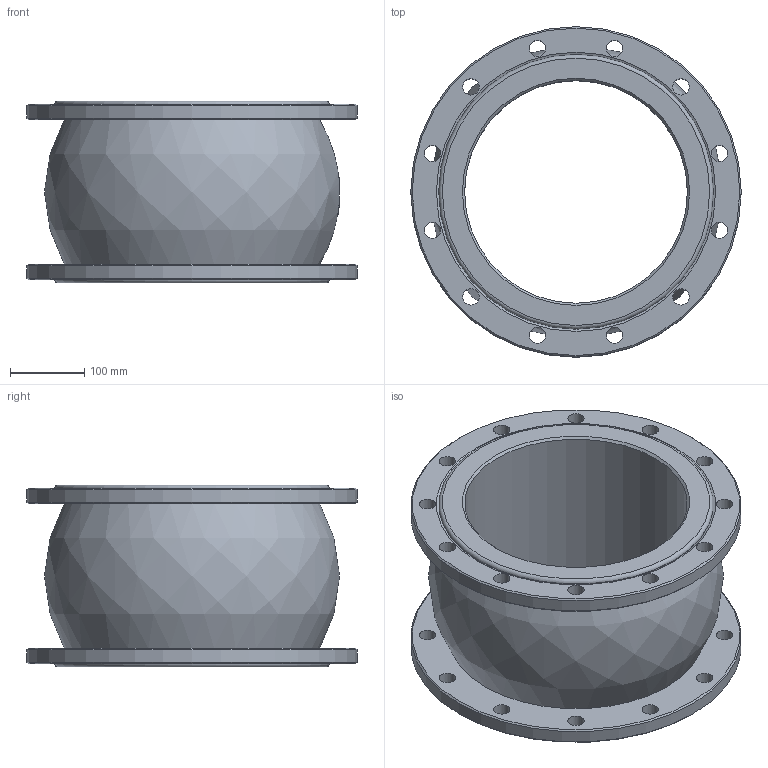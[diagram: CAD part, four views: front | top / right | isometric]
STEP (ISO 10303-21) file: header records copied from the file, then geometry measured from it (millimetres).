
FILE_DESCRIPTION(/* description */ ('D140-02384','CAx-IF Rec.Pracs.---Representation and Presentation of Product Manufacturing Information (PMI)---4.0---2014-10-13'),/* implementation_level */ '2;1');
FILE_NAME(/* name */ '',/* time_stamp */ '2026-03-10T23:00:52+03:00',/* author */ ('DN.RU'),/* organization */ ('DN.RU'),/* preprocessor_version */ 'ST-DEVELOPER v20',/* originating_system */ 'Autodesk Inventor 2025',/* authorisation */ '');
FILE_SCHEMA (('AP242_MANAGED_MODEL_BASED_3D_ENGINEERING_MIM_LF { 1 0 10303 442 1 1 4 }'));
Length unit declared in the file: millimetre
Products named in the file (1): CR-N32-F
Bounding box: 445 x 445 x 245 mm (x, y, z)
Volume: 11991394.7 mm3; surface area: 845719.2 mm2
Topology: 1 solids, 1 shells, 115 faces, 312 edges, 206 vertices
Faces by surface type: plane 43, bspline 34, cylinder 29, cone 7, torus 2
Full cylindrical faces by diameter (mm): 22 x24, 300 x1, 370 x2, 445 x2
Entity records: 4916 total; most frequent: CARTESIAN_POINT 1718, ORIENTED_EDGE 624, DIRECTION 608, EDGE_CURVE 312, AXIS2_PLACEMENT_3D 256, VERTEX_POINT 206, EDGE_LOOP 172, CIRCLE 161
